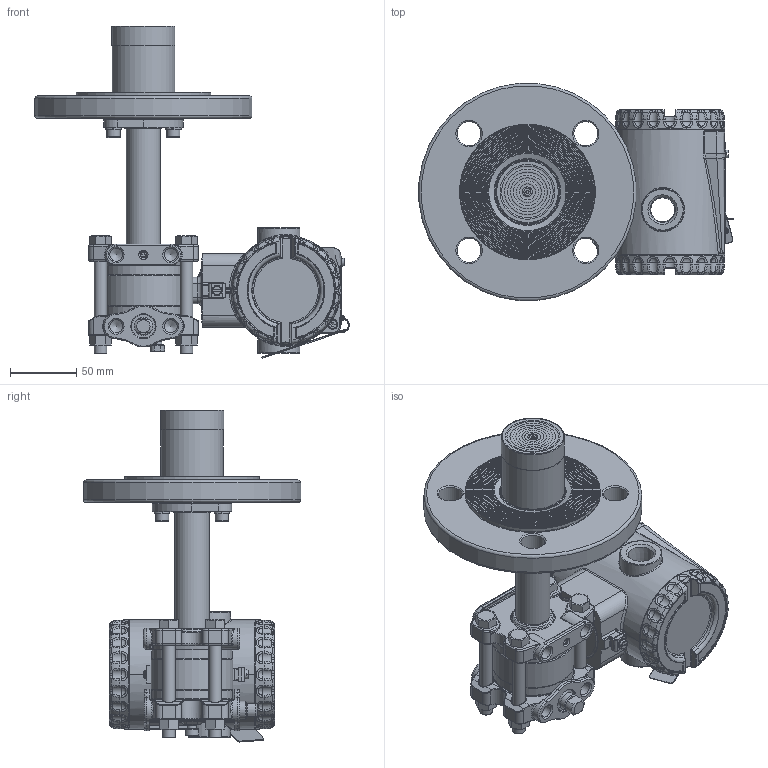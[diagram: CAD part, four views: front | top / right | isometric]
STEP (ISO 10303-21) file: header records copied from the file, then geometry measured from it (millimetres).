
FILE_DESCRIPTION(/* description */ (''),/* implementation_level */ '2;1');
FILE_NAME(/* name */ 'F:\Area\Desenvolvimento_2\Projects\Sensor\projetos\LD400-3d\dimensionais 3D clientes\LD400L\LD400L DN50 PN40 RF ext 50 ref 1-4NPT purga acima.stp',/* time_stamp */ '2023-02-23T17:07:40-03:00',/* author */ ('inventor02'),/* organization */ (''),/* preprocessor_version */ 'ST-DEVELOPER v17',/* originating_system */ 'Autodesk Inventor 2019',/* authorisation */ '');
FILE_SCHEMA (('CONFIG_CONTROL_DESIGN'));
Products named in the file (41): LD30XL DN50 PN40 RF ext 50 ref 1-4NPT purga acima; 204-0301-L-DN50 PN40 RF ext 50 purga acima; nivel fx3 com baixa diferencial 1-4NPT purga acima; involucro fx0-3 apos a usinagem final; flange diferencial std purga; 101-C-7484-01 flange selo nivel VR; 201-A-0504-tubo união teste 1; bujao 1-4NPT; Sangria; Porca 3-8 x 16 UNC; Paraf. 3-8 x 16 UNC; adaptação tubo x flanges 1-1-2 a 4pol; 101-B-0161-anel cortado do tubo - teste1; 101-B-0162-flange fixação tubo; ANSI B18.3.1M - M6x1 x 16; DIN 127 - A 6; flange DN50 PN40 ext 50; 101-C-0134-10; 101-B-7700-01-50; 101-B-0168-11; Carcaça 400 com tampas e plaqueta sem letras; 101-D-0845-05 carcaça LD400 sem letras; 101-B-3614-03-tampa 400 sem letras; Tampa visor 400 montada sem letras; 101-B-3612-05 tampa visor 400 sem letras; 101-A-6107; oring 2034; 00034775-0; WHW_250; DIN 915 - M6 x 10; Chapa aterramento externo; 201-A-1771-02 inserto terra recartilhado; AS 1969 - ST4,2; ISO 1207 - M4 x 8; ANSI B18.3.1M - M4x0,7 x 8; Subconjunto plaqueta 400; plaqueta 400 em branco; Parafuso da Plaqueta; Rebite da Plaqueta; 096-A-0169-03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
Assembly tree (50 placements, depth 4):
  LD30XL DN50 PN40 RF ext 50 ref 1-4NPT purga acima
    204-0301-L-DN50 PN40 RF ext 50 purga acima
      nivel fx3 com baixa diferencial 1-4NPT purga acima
        involucro fx0-3 apos a usinagem final
        flange diferencial std purga
        101-C-7484-01 flange selo nivel VR
        201-A-0504-tubo união teste 1
        DIN 915 - M6 x 10
        bujao 1-4NPT
        Sangria
        Porca 3-8 x 16 UNC  x4
        Paraf. 3-8 x 16 UNC  x4
      adaptação tubo x flanges 1-1-2 a 4pol
        101-B-0161-anel cortado do tubo - teste1
        101-B-0162-flange fixação tubo
        ANSI B18.3.1M - M6x1 x 16  x2
        DIN 127 - A 6  x2
      flange DN50 PN40 ext 50
        101-C-0134-10
        101-B-7700-01-50
        101-B-0168-11
    Carcaça 400 com tampas e plaqueta sem letras
      101-D-0845-05 carcaça LD400 sem letras
      101-B-3614-03-tampa 400 sem letras
      Tampa visor 400 montada sem letras
        101-B-3612-05 tampa visor 400 sem letras
        101-A-6107
        oring 2034
        00034775-0
        WHW_250
      DIN 915 - M6 x 10
      Chapa aterramento externo
      201-A-1771-02 inserto terra recartilhado
      AS 1969 - ST4,2
      ISO 1207 - M4 x 8
      ANSI B18.3.1M - M4x0,7 x 8  x2
      Subconjunto plaqueta 400
        plaqueta 400 em branco
        Parafuso da Plaqueta
        Rebite da Plaqueta
        096-A-0169-03
        101-A-0502-01
Bounding box: 237.94 x 164.37 x 251.42 mm (x, y, z)
Volume: 1035321.4 mm3; surface area: 331634.8 mm2
Topology: 43 solids, 43 shells, 2797 faces, 6756 edges, 4058 vertices
Faces by surface type: plane 739, cylinder 664, bspline 604, torus 492, cone 222, sphere 76
Full cylindrical faces by diameter (mm): 2 x4, 2.1 x1, 2.2 x1, 2.459 x3, 2.5 x1, 2.7 x1, 2.8 x1, 3 x4, 3.242 x3, 3.5 x1, 3.571 x1, 4 x5, 4.3 x2, 4.4 x1, 4.917 x4, 5 x1, 5.5 x3, 6 x6, 6.1 x2, 6.2 x1, 6.647 x1, 7 x5, 7.6 x2, 7.798 x4, 8 x1, 9.525 x4, 9.728 x6, 10 x2, 10.5 x8, 10.719 x2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
Entity records: 99352 total; most frequent: CARTESIAN_POINT 37173, DIRECTION 12850, ORIENTED_EDGE 12752, EDGE_CURVE 6376, AXIS2_PLACEMENT_3D 5514, VERTEX_POINT 3864, CIRCLE 3204, EDGE_LOOP 2850
